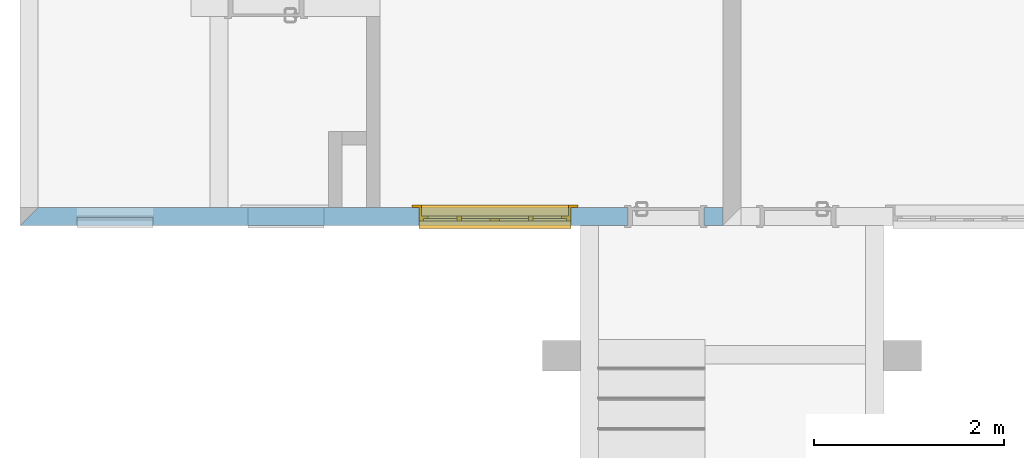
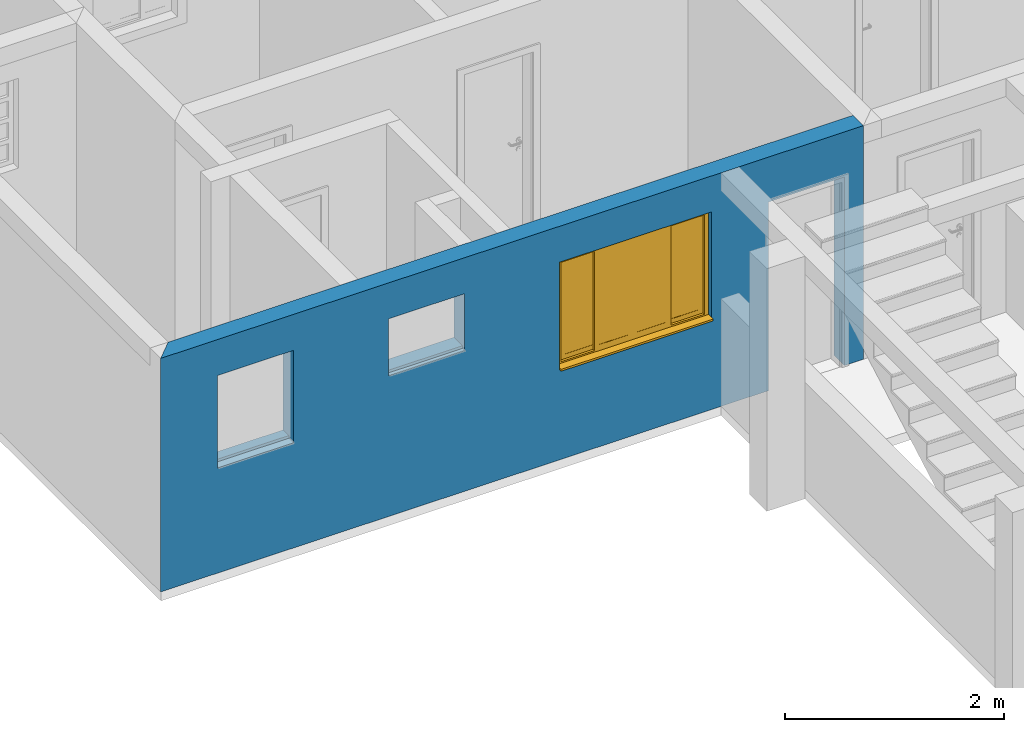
# One storey, part 26 of 47: 1 wall, 1 window, 4 openings.
"""IFC2X3 building model written with IfcOpenShell, lengths in millimetres."""

from ifc_helpers import new_model, entity, si_unit, converted_unit, derived_unit, money_unit, direction, frame, origin_with_axes, origin_2d_with_axis, place, context, subcontext, project, spatial, polyline, rectangle, outline, extrude, open_shell, faceted_brep, surface_model, source, transform, mapped, material, layer, layer_set, layer_usage, type_object, element, fill, save


model = new_model("IFC2X3")

# Units and contexts
model_context = context("Model", 3, precision=0.01, world=origin_with_axes(), true_north=direction((0.0, 1.0)))
body_context = subcontext(model_context, "Body", "Model", "MODEL_VIEW")
ifc_project = project(units=[si_unit("LENGTHUNIT", "METRE", prefix="MILLI"), si_unit("AREAUNIT", "SQUARE_METRE"), si_unit("VOLUMEUNIT", "CUBIC_METRE"), converted_unit("PLANEANGLEUNIT", "DEGREE", entity("IfcPlaneAngleMeasure", 0.0174532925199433), si_unit("PLANEANGLEUNIT", "RADIAN"), dimensions=[0, 0, 0, 0, 0, 0, 0]), money_unit("USD"), converted_unit("TIMEUNIT", "Year", entity("IfcTimeMeasure", 31557600.0), si_unit("TIMEUNIT", "SECOND"), dimensions=[0, 0, 1, 0, 0, 0, 0]), si_unit("MASSUNIT", "GRAM", prefix="KILO"), si_unit("THERMODYNAMICTEMPERATUREUNIT", "DEGREE_CELSIUS"), si_unit("LUMINOUSINTENSITYUNIT", "LUMEN"), si_unit("ENERGYUNIT", "JOULE", prefix="MEGA"), derived_unit("THERMALCONDUCTANCEUNIT", [(si_unit("POWERUNIT", "WATT"), 1), (si_unit("LENGTHUNIT", "METRE"), -1), (si_unit("THERMODYNAMICTEMPERATUREUNIT", "KELVIN"), -1)]), derived_unit("SPECIFICHEATCAPACITYUNIT", [(si_unit("ENERGYUNIT", "JOULE"), 1), (si_unit("MASSUNIT", "GRAM", prefix="KILO"), -1), (si_unit("THERMODYNAMICTEMPERATUREUNIT", "KELVIN"), -1)]), derived_unit("MASSDENSITYUNIT", [(si_unit("MASSUNIT", "GRAM", prefix="KILO"), 1), (si_unit("VOLUMEUNIT", "CUBIC_METRE"), -1)])], contexts=[model_context])

# Site, building, storey
site_placement = place(None, origin_with_axes())
site = spatial("IfcSite", under=ifc_project, at=site_placement, Name="Local", CompositionType="ELEMENT")
building_placement = place(site_placement, origin_with_axes())
building = spatial("IfcBuilding", under=site, at=building_placement, Name="Construção", CompositionType="ELEMENT")
storey_placement = place(building_placement, origin_with_axes())
storey = spatial("IfcBuildingStorey", under=building, at=storey_placement, Name="Pavimento Tipo", CompositionType="ELEMENT", Elevation=0.0)

# Wall, openings, window
ifc_material = material(Name="Concreto - Estrutural")
ifc_layer = layer(ifc_material, 190.0, ventilated="UNKNOWN")
ifc_layer_set = layer_set([ifc_layer], Name="Concreto - Estrutural 190")
ifc_layer_usage = layer_usage(ifc_layer_set, "AXIS2", "POSITIVE", -190.0)
wall_type = type_object("IfcWallType", Name="Concreto - Estrutural 190", PredefinedType="NOTDEFINED")
wall_placement = place(storey_placement, frame((852.5669975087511, 12396.98141771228, 0.0), z_axis=(0.0, 0.0, 1.0), x_axis=(-1.0, 0.0, 0.0)))
wall = element("IfcWallStandardCase", 1, at=wall_placement, inside=storey, type_object=wall_type, material=ifc_layer_usage, Name="Apartamento 2 - Parede-003", context=body_context, shape_type="SweptSolid", body=[
    extrude(outline(polyline([(0.0, -189.9999999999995), (7209.999999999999, -189.9999999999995), (7399.999999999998, 0.0), (0.0, 0.0), (0.0, -189.9999999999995)])), origin_with_axes(), (0.0, 0.0, 1.0), 2600.0),
])
opening_1_placement = place(wall_placement, frame((2400.0, 0.0, 1000.0), z_axis=(0.0, 0.0, 1.0), x_axis=(1.0, 0.0, 0.0)))
opening_1 = element("IfcOpeningElement", 2, at=opening_1_placement, cuts=wall, Name="Apartamento 2 - J01", context=body_context, shape_type="SweptSolid", body=[
    extrude(rectangle(XDim=1600.0, YDim=1200.0, at=origin_2d_with_axis()), frame((0.0, -49.99999999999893, 600.0000000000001), z_axis=(0.0, 1.0, 0.0), x_axis=(1.0, 0.0, 0.0)), (0.0, 0.0, -1.0), 330.0),
    extrude(rectangle(XDim=1600.0, YDim=1200.0, at=origin_2d_with_axis()), frame((0.0, -49.99999999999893, 600.0000000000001), z_axis=(0.0, -1.0, 0.0), x_axis=(1.0, 0.0, 0.0)), (0.0, 0.0, -1.0), 240.0),
    extrude(rectangle(XDim=1750.0, YDim=1350.0, at=origin_2d_with_axis()), frame((0.0, -189.9999999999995, 599.9999999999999), z_axis=(0.0, 1.0, 0.0), x_axis=(1.0, 0.0, 0.0)), (0.0, 0.0, -1.0), 240.0),
])
opening_2_placement = place(wall_placement, frame((4600.0, 0.0, 1600.0), z_axis=(0.0, 0.0, 1.0), x_axis=(1.0, 0.0, 0.0)))
element("IfcOpeningElement", 3, at=opening_2_placement, cuts=wall, Name="Apartamento 2 - J02", context=body_context, shape_type="SweptSolid", body=[
    extrude(rectangle(XDim=800.0000000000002, YDim=599.9999999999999, at=origin_2d_with_axis()), frame((0.0, -189.9999999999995, 299.9999999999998), z_axis=(0.0, -1.0, 0.0), x_axis=(-1.0, 0.0, 0.0)), (0.0, 0.0, -1.0), 570.0000000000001),
    extrude(rectangle(XDim=800.0000000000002, YDim=30.00000000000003, at=origin_2d_with_axis()), frame((0.0, -35.00000000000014, -14.9999999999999), z_axis=(0.0, 1.0, 0.0), x_axis=(-1.0, 0.0, 0.0)), (0.0, 0.0, 1.0), 225.0),
    extrude(rectangle(XDim=950.0000000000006, YDim=750.0, at=origin_2d_with_axis()), frame((0.0, -189.9999999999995, 300.0000000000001), z_axis=(0.0, -1.0, 0.0), x_axis=(-1.0, 0.0, 0.0)), (0.0, 0.0, 1.0), 190.0),
])
opening_3_placement = place(wall_placement, frame((6399.999999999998, 0.0, 1200.0), z_axis=(0.0, 0.0, 1.0), x_axis=(1.0, 0.0, 0.0)))
element("IfcOpeningElement", 4, at=opening_3_placement, cuts=wall, Name="Apartamento 2 - J03", context=body_context, shape_type="SweptSolid", body=[
    extrude(rectangle(XDim=800.0000000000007, YDim=999.9999999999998, at=origin_2d_with_axis()), frame((0.0, -49.99999999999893, 500.0), z_axis=(0.0, -1.0, 0.0), x_axis=(-1.0, 0.0, 0.0)), (0.0, 0.0, 1.0), 330.0),
    extrude(rectangle(XDim=800.0000000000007, YDim=999.9999999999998, at=origin_2d_with_axis()), frame((0.0, -49.99999999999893, 500.0), z_axis=(0.0, 1.0, 0.0), x_axis=(-1.0, 0.0, 0.0)), (0.0, 0.0, 1.0), 240.0),
    extrude(rectangle(XDim=800.0000000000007, YDim=30.00000000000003, at=origin_2d_with_axis()), frame((0.0, -84.99999999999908, -14.9999999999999), z_axis=(0.0, 1.0, 0.0), x_axis=(-1.0, 0.0, 0.0)), (0.0, 0.0, 1.0), 225.0),
])
opening_4_placement = place(wall_placement, frame((600.0000000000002, 0.0, 0.0), z_axis=(0.0, 0.0, 1.0), x_axis=(1.0, 0.0, 0.0)))
element("IfcOpeningElement", 5, at=opening_4_placement, cuts=wall, Name="Apartamento 2 - P01", context=body_context, shape_type="SweptSolid", body=[
    extrude(rectangle(XDim=800.0, YDim=2100.0, at=origin_2d_with_axis()), frame((0.0, -189.9999999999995, 1050.0), z_axis=(0.0, 1.0, 0.0), x_axis=(-1.0, 0.0, 0.0)), (0.0, 0.0, 1.0), 570.0000000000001),
    extrude(rectangle(XDim=870.0000000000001, YDim=2135.0, at=origin_2d_with_axis()), frame((0.0, -189.9999999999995, 1067.5), z_axis=(0.0, 1.0, 0.0), x_axis=(-1.0, 0.0, 0.0)), (0.0, 0.0, -1.0), 190.0),
    extrude(rectangle(XDim=870.0000000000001, YDim=2135.0, at=origin_2d_with_axis()), frame((0.0, 0.0, 1067.5), z_axis=(0.0, -1.0, 0.0), x_axis=(-1.0, 0.0, 0.0)), (0.0, 0.0, -1.0), 190.0),
])
window_style = type_object("IfcWindowStyle", Name="Janela de Correr 4-Folhas 27", ConstructionType="NOTDEFINED", OperationType="USERDEFINED", ParameterTakesPrecedence=False, Sizeable=False)
shared_shape = source(origin_with_axes(), body_context, "Body", "SurfaceModel", [
    faceted_brep([(-800.0, 0.0, 5.0), (-800.0, 0.0, 30.0), (-800.0, 50.0, 27.37961103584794), (-800.0, 50.0, 5.000000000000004), (800.0, 0.0, 5.0), (800.0, 0.0, 30.0), (800.0, 50.0, 27.37961103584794), (800.0, 80.0, 25.8073776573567), (-800.0, 80.0, 25.8073776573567), (-800.0, 80.0, 5.000000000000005), (800.0, 80.0, 5.000000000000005), (800.0, 50.0, 5.000000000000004)], [[[0, 1, 2, 3]], [[4, 5, 1, 0]], [[1, 5, 6, 7, 8, 2]], [[3, 2, 8, 9]], [[0, 3, 9, 10, 11, 4]], [[11, 6, 5, 4]], [[10, 7, 6, 11]], [[9, 8, 7, 10]]]),
    faceted_brep([(-800.0, 0.0, 0.0), (-800.0, 0.0, 5.0), (-800.0, 50.0, 5.0), (-800.0, 50.0, 0.0), (800.0, 0.0, 0.0), (800.0, 0.0, 5.0), (800.0, 50.0, 5.0), (800.0, 50.0, 0.0)], [[[0, 1, 2, 3]], [[4, 5, 1, 0]], [[1, 5, 6, 2]], [[3, 2, 6, 7]], [[0, 3, 7, 4]], [[7, 6, 5, 4]]]),
    faceted_brep([(-800.0, -50.0, 0.0), (800.0, -50.0, 0.0), (800.0, -140.0, 0.0), (-800.0, -140.0, 0.0), (-800.0, -50.00000000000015, 1200.0), (800.0, -50.00000000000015, 1200.0), (-775.0, -50.0, 24.99999999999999), (775.0, -50.0, 24.99999999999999), (775.0, -50.00000000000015, 1175.0), (-775.0, -50.00000000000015, 1175.0), (800.0, -140.0000000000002, 1200.0), (-800.0, -140.0000000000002, 1200.0), (-775.0, -140.0, 24.99999999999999), (-775.0, -140.0000000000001, 1175.0), (775.0, -140.0000000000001, 1175.0), (775.0, -140.0, 24.99999999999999)], [[[0, 1, 2, 3]], [[0, 4, 5, 1], [6, 7, 8, 9]], [[1, 5, 10, 2]], [[3, 2, 10, 11], [12, 13, 14, 15]], [[4, 0, 3, 11]], [[5, 4, 11, 10]], [[7, 6, 12, 15]], [[8, 7, 15, 14]], [[9, 8, 14, 13]], [[6, 9, 13, 12]]]),
    faceted_brep([(-875.0, -165.0, -75.00000000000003), (-875.0, -140.0, -75.00000000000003), (-775.0, -140.0, 24.99999999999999), (-775.0, -165.0, 24.99999999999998), (-875.0, -165.0000000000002, 1275.0), (-875.0, -140.0000000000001, 1275.0), (-775.0, -140.0000000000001, 1175.0), (-775.0, -165.0000000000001, 1175.0)], [[[0, 1, 2, 3]], [[4, 5, 1, 0]], [[1, 5, 6, 2]], [[3, 2, 6, 7]], [[0, 3, 7, 4]], [[7, 6, 5, 4]]]),
    faceted_brep([(875.0, -165.0000000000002, 1275.0), (875.0, -140.0000000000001, 1275.0), (775.0, -140.0000000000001, 1175.0), (775.0, -165.0000000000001, 1175.0), (875.0, -165.0, -75.00000000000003), (875.0, -140.0, -75.00000000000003), (775.0, -140.0, 24.99999999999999), (775.0, -165.0, 24.99999999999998)], [[[0, 1, 2, 3]], [[4, 5, 1, 0]], [[1, 5, 6, 2]], [[3, 2, 6, 7]], [[0, 3, 7, 4]], [[7, 6, 5, 4]]]),
    faceted_brep([(875.0, -165.0, -75.00000000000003), (875.0, -140.0, -75.00000000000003), (775.0, -140.0, 24.99999999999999), (775.0, -165.0, 24.99999999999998), (-875.0, -165.0, -75.00000000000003), (-875.0, -140.0, -75.00000000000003), (-775.0, -140.0, 24.99999999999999), (-775.0, -165.0, 24.99999999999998)], [[[0, 1, 2, 3]], [[4, 5, 1, 0]], [[1, 5, 6, 2]], [[3, 2, 6, 7]], [[0, 3, 7, 4]], [[7, 6, 5, 4]]]),
    faceted_brep([(-875.0, -165.0000000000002, 1275.0), (-875.0, -140.0000000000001, 1275.0), (-775.0, -140.0000000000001, 1175.0), (-775.0, -165.0000000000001, 1175.0), (875.0, -165.0000000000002, 1275.0), (875.0, -140.0000000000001, 1275.0), (775.0, -140.0000000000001, 1175.0), (775.0, -165.0000000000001, 1175.0)], [[[0, 1, 2, 3]], [[4, 5, 1, 0]], [[1, 5, 6, 2]], [[3, 2, 6, 7]], [[0, 3, 7, 4]], [[7, 6, 5, 4]]]),
    faceted_brep([(-753.0, -50.00000000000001, 47.0), (-753.0, 0.0, 47.00000000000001), (-753.0, 0.0, 1153.0), (-753.0, -50.00000000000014, 1153.0), (-800.0, -50.00000000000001, 47.0), (-800.0, 0.0, 47.00000000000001), (-800.0, 0.0, 1153.0), (-800.0, -50.00000000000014, 1153.0)], [[[0, 1, 2, 3]], [[4, 5, 1, 0]], [[1, 5, 6, 2]], [[3, 2, 6, 7]], [[0, 3, 7, 4]], [[7, 6, 5, 4]]]),
    faceted_brep([(800.0, -50.00000000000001, 47.0), (800.0, 0.0, 47.00000000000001), (800.0, 0.0, 1153.0), (800.0, -50.00000000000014, 1153.0), (753.0, -50.00000000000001, 47.0), (753.0, 0.0, 47.00000000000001), (753.0, 0.0, 1153.0), (753.0, -50.00000000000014, 1153.0)], [[[0, 1, 2, 3]], [[4, 5, 1, 0]], [[1, 5, 6, 2]], [[3, 2, 6, 7]], [[0, 3, 7, 4]], [[7, 6, 5, 4]]]),
    faceted_brep([(800.0, -50.00000000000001, 47.0), (800.0, 0.0, 47.00000000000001), (753.0, 0.0, 47.00000000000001), (753.0, -50.00000000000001, 47.0), (800.0, -50.0, 0.0), (800.0, 0.0, 0.0), (-800.0, 0.0, 0.0), (-800.0, 0.0, 47.00000000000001), (-753.0, 0.0, 47.00000000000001), (-753.0, -50.00000000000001, 47.0), (-800.0, -50.00000000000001, 47.0), (-800.0, -50.0, 0.0)], [[[0, 1, 2, 3]], [[4, 5, 1, 0]], [[1, 5, 6, 7, 8, 2]], [[3, 2, 8, 9]], [[0, 3, 9, 10, 11, 4]], [[11, 6, 5, 4]], [[10, 7, 6, 11]], [[9, 8, 7, 10]]]),
    faceted_brep([(800.0, -50.00000000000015, 1200.0), (800.0, 0.0, 1200.0), (-800.0, 0.0, 1200.0), (-800.0, -50.00000000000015, 1200.0), (800.0, -50.00000000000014, 1153.0), (800.0, 0.0, 1153.0), (753.0, 0.0, 1153.0), (376.5000000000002, 0.0, 1153.0), (0.0, 0.0, 1153.0), (-376.4999999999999, 0.0, 1153.0), (-753.0, 0.0, 1153.0), (-800.0, 0.0, 1153.0), (-800.0, -50.00000000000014, 1153.0), (-753.0, -50.00000000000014, 1153.0), (-376.4999999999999, -50.00000000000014, 1153.0), (0.0, -50.00000000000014, 1153.0), (376.5000000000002, -50.00000000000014, 1153.0), (753.0, -50.00000000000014, 1153.0)], [[[0, 1, 2, 3]], [[4, 5, 1, 0]], [[1, 5, 6, 7, 8, 9, 10, 11, 2]], [[3, 2, 11, 12]], [[0, 3, 12, 13, 14, 15, 16, 17, 4]], [[17, 6, 5, 4]], [[16, 7, 6, 17]], [[15, 8, 7, 16]], [[14, 9, 8, 15]], [[13, 10, 9, 14]], [[12, 11, 10, 13]]]),
    faceted_brep([(-703.0, -50.00000000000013, 1103.0), (-703.0, -25.00000000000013, 1103.0), (-752.9999999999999, -25.00000000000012, 1103.0), (-752.9999999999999, -50.00000000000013, 1103.0), (-703.0, -50.00000000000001, 97.0), (-703.0, -25.0, 97.0), (-752.9999999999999, -25.0, 97.0), (-752.9999999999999, -50.0, 97.0)], [[[0, 1, 2, 3]], [[4, 5, 1, 0]], [[1, 5, 6, 2]], [[3, 2, 6, 7]], [[0, 3, 7, 4]], [[7, 6, 5, 4]]]),
    faceted_brep([(-401.4999999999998, -50.00000000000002, 97.0), (-401.4999999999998, -25.00000000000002, 97.0), (-351.4999999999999, -25.00000000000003, 97.0), (-351.4999999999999, -50.00000000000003, 97.0), (-401.4999999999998, -50.00000000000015, 1103.0), (-401.4999999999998, -25.00000000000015, 1103.0), (-351.4999999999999, -25.00000000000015, 1103.0), (-351.4999999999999, -50.00000000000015, 1103.0)], [[[0, 1, 2, 3]], [[4, 5, 1, 0]], [[1, 5, 6, 2]], [[3, 2, 6, 7]], [[0, 3, 7, 4]], [[7, 6, 5, 4]]]),
    faceted_brep([(-351.4999999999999, -50.00000000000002, 47.0), (-351.4999999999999, -25.00000000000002, 47.0), (-351.4999999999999, -25.00000000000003, 97.0), (-351.4999999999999, -50.00000000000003, 97.0), (-752.9999999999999, -49.99999999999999, 47.0), (-752.9999999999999, -24.99999999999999, 47.0), (-752.9999999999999, -25.0, 97.0), (-703.0, -25.0, 97.0), (-401.4999999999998, -25.00000000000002, 97.0), (-401.4999999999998, -50.00000000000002, 97.0), (-703.0, -50.00000000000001, 97.0), (-752.9999999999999, -50.0, 97.0)], [[[0, 1, 2, 3]], [[4, 5, 1, 0]], [[1, 5, 6, 7, 8, 2]], [[3, 2, 8, 9]], [[0, 3, 9, 10, 11, 4]], [[11, 6, 5, 4]], [[10, 7, 6, 11]], [[9, 8, 7, 10]]]),
    faceted_brep([(-752.9999999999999, -50.00000000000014, 1153.0), (-752.9999999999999, -25.00000000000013, 1153.0), (-752.9999999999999, -25.00000000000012, 1103.0), (-752.9999999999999, -50.00000000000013, 1103.0), (-351.4999999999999, -50.00000000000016, 1153.0), (-351.4999999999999, -25.00000000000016, 1153.0), (-351.4999999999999, -25.00000000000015, 1103.0), (-401.4999999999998, -25.00000000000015, 1103.0), (-703.0, -25.00000000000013, 1103.0), (-703.0, -50.00000000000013, 1103.0), (-401.4999999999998, -50.00000000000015, 1103.0), (-351.4999999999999, -50.00000000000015, 1103.0)], [[[0, 1, 2, 3]], [[4, 5, 1, 0]], [[1, 5, 6, 7, 8, 2]], [[3, 2, 8, 9]], [[0, 3, 9, 10, 11, 4]], [[11, 6, 5, 4]], [[10, 7, 6, 11]], [[9, 8, 7, 10]]]),
    surface_model("IfcShellBasedSurfaceModel", [(-703.0, -47.50000000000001, 97.0), (-401.4999999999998, -47.50000000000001, 97.0), (-401.4999999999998, -47.50000000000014, 1103.0), (-703.0, -47.50000000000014, 1103.0)], [open_shell([[[0, 1, 2, 3]]])]),
    surface_model("IfcShellBasedSurfaceModel", [(-703.0, -27.50000000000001, 97.0), (-703.0, -27.50000000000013, 1103.0), (-401.4999999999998, -27.50000000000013, 1103.0), (-401.4999999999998, -27.50000000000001, 97.0)], [open_shell([[[0, 1, 2, 3]]])]),
    faceted_brep([(-351.4999999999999, -25.00000000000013, 1103.0), (-351.4999999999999, 0.0, 1103.0), (-401.4999999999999, 0.0, 1103.0), (-401.4999999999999, -25.00000000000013, 1103.0), (-351.4999999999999, -25.0, 97.0), (-351.4999999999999, 0.0, 97.0), (-401.4999999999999, 0.0, 97.0), (-401.4999999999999, -25.0, 97.0)], [[[0, 1, 2, 3]], [[4, 5, 1, 0]], [[1, 5, 6, 2]], [[3, 2, 6, 7]], [[0, 3, 7, 4]], [[7, 6, 5, 4]]]),
    faceted_brep([(-49.99999999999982, -25.00000000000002, 97.0), (-49.99999999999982, 0.0, 97.0), (0.0, 0.0, 97.0), (0.0, -25.00000000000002, 97.0), (-49.99999999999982, -25.00000000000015, 1103.0), (-49.99999999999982, 0.0, 1103.0), (0.0, 0.0, 1103.0), (0.0, -25.00000000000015, 1103.0)], [[[0, 1, 2, 3]], [[4, 5, 1, 0]], [[1, 5, 6, 2]], [[3, 2, 6, 7]], [[0, 3, 7, 4]], [[7, 6, 5, 4]]]),
    faceted_brep([(0.0, -25.00000000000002, 47.0), (0.0, 0.0, 47.0), (0.0, 0.0, 97.0), (0.0, -25.00000000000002, 97.0), (-401.4999999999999, -24.99999999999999, 47.0), (-401.4999999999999, 0.0, 47.0), (-401.4999999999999, 0.0, 97.0), (-351.4999999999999, 0.0, 97.0), (-49.99999999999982, 0.0, 97.0), (-49.99999999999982, -25.00000000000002, 97.0), (-351.4999999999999, -25.0, 97.0), (-401.4999999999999, -25.0, 97.0)], [[[0, 1, 2, 3]], [[4, 5, 1, 0]], [[1, 5, 6, 7, 8, 2]], [[3, 2, 8, 9]], [[0, 3, 9, 10, 11, 4]], [[11, 6, 5, 4]], [[10, 7, 6, 11]], [[9, 8, 7, 10]]]),
    faceted_brep([(-401.4999999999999, -25.00000000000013, 1153.0), (-401.4999999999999, 0.0, 1153.0), (-401.4999999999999, 0.0, 1103.0), (-401.4999999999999, -25.00000000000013, 1103.0), (0.0, -25.00000000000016, 1153.0), (0.0, 0.0, 1153.0), (0.0, 0.0, 1103.0), (-49.99999999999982, 0.0, 1103.0), (-351.4999999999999, 0.0, 1103.0), (-351.4999999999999, -25.00000000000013, 1103.0), (-49.99999999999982, -25.00000000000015, 1103.0), (0.0, -25.00000000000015, 1103.0)], [[[0, 1, 2, 3]], [[4, 5, 1, 0]], [[1, 5, 6, 7, 8, 2]], [[3, 2, 8, 9]], [[0, 3, 9, 10, 11, 4]], [[11, 6, 5, 4]], [[10, 7, 6, 11]], [[9, 8, 7, 10]]]),
    surface_model("IfcShellBasedSurfaceModel", [(-351.4999999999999, -22.50000000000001, 97.0), (-49.99999999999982, -22.50000000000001, 97.0), (-49.99999999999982, -22.50000000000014, 1103.0), (-351.4999999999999, -22.50000000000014, 1103.0)], [open_shell([[[0, 1, 2, 3]]])]),
    surface_model("IfcShellBasedSurfaceModel", [(-351.4999999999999, -2.500000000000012, 97.0), (-351.4999999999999, -2.500000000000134, 1103.0), (-49.99999999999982, -2.500000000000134, 1103.0), (-49.99999999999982, -2.500000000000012, 97.0)], [open_shell([[[0, 1, 2, 3]]])]),
    faceted_brep([(50.00000000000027, -25.00000000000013, 1103.0), (50.00000000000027, 0.0, 1103.0), (0.0, 0.0, 1103.0), (0.0, -25.00000000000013, 1103.0), (50.00000000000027, -25.0, 97.0), (50.00000000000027, 0.0, 97.0), (0.0, 0.0, 97.0), (0.0, -25.0, 97.0)], [[[0, 1, 2, 3]], [[4, 5, 1, 0]], [[1, 5, 6, 2]], [[3, 2, 6, 7]], [[0, 3, 7, 4]], [[7, 6, 5, 4]]]),
    faceted_brep([(351.5000000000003, -25.00000000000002, 97.0), (351.5000000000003, 0.0, 97.0), (401.5000000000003, 0.0, 97.0), (401.5000000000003, -25.00000000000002, 97.0), (351.5000000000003, -25.00000000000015, 1103.0), (351.5000000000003, 0.0, 1103.0), (401.5000000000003, 0.0, 1103.0), (401.5000000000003, -25.00000000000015, 1103.0)], [[[0, 1, 2, 3]], [[4, 5, 1, 0]], [[1, 5, 6, 2]], [[3, 2, 6, 7]], [[0, 3, 7, 4]], [[7, 6, 5, 4]]]),
    faceted_brep([(401.5000000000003, -25.00000000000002, 47.0), (401.5000000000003, 0.0, 47.0), (401.5000000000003, 0.0, 97.0), (401.5000000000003, -25.00000000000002, 97.0), (0.0, -24.99999999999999, 47.0), (0.0, 0.0, 47.0), (0.0, 0.0, 97.0), (50.00000000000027, 0.0, 97.0), (351.5000000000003, 0.0, 97.0), (351.5000000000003, -25.00000000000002, 97.0), (50.00000000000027, -25.0, 97.0), (0.0, -25.0, 97.0)], [[[0, 1, 2, 3]], [[4, 5, 1, 0]], [[1, 5, 6, 7, 8, 2]], [[3, 2, 8, 9]], [[0, 3, 9, 10, 11, 4]], [[11, 6, 5, 4]], [[10, 7, 6, 11]], [[9, 8, 7, 10]]]),
    faceted_brep([(0.0, -25.00000000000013, 1153.0), (0.0, 0.0, 1153.0), (0.0, 0.0, 1103.0), (0.0, -25.00000000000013, 1103.0), (401.5000000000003, -25.00000000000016, 1153.0), (401.5000000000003, 0.0, 1153.0), (401.5000000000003, 0.0, 1103.0), (351.5000000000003, 0.0, 1103.0), (50.00000000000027, 0.0, 1103.0), (50.00000000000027, -25.00000000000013, 1103.0), (351.5000000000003, -25.00000000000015, 1103.0), (401.5000000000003, -25.00000000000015, 1103.0)], [[[0, 1, 2, 3]], [[4, 5, 1, 0]], [[1, 5, 6, 7, 8, 2]], [[3, 2, 8, 9]], [[0, 3, 9, 10, 11, 4]], [[11, 6, 5, 4]], [[10, 7, 6, 11]], [[9, 8, 7, 10]]]),
    surface_model("IfcShellBasedSurfaceModel", [(50.00000000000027, -22.50000000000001, 97.0), (351.5000000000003, -22.50000000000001, 97.0), (351.5000000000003, -22.50000000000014, 1103.0), (50.00000000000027, -22.50000000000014, 1103.0)], [open_shell([[[0, 1, 2, 3]]])]),
    surface_model("IfcShellBasedSurfaceModel", [(50.00000000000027, -2.500000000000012, 97.0), (50.00000000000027, -2.500000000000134, 1103.0), (351.5000000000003, -2.500000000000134, 1103.0), (351.5000000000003, -2.500000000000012, 97.0)], [open_shell([[[0, 1, 2, 3]]])]),
    faceted_brep([(401.5000000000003, -50.00000000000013, 1103.0), (401.5000000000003, -25.00000000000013, 1103.0), (351.5000000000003, -25.00000000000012, 1103.0), (351.5000000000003, -50.00000000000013, 1103.0), (401.5000000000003, -50.00000000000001, 97.0), (401.5000000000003, -25.0, 97.0), (351.5000000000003, -25.0, 97.0), (351.5000000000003, -50.0, 97.0)], [[[0, 1, 2, 3]], [[4, 5, 1, 0]], [[1, 5, 6, 2]], [[3, 2, 6, 7]], [[0, 3, 7, 4]], [[7, 6, 5, 4]]]),
    faceted_brep([(703.0000000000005, -50.00000000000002, 97.0), (703.0000000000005, -25.00000000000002, 97.0), (753.0000000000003, -25.00000000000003, 97.0), (753.0000000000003, -50.00000000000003, 97.0), (703.0000000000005, -50.00000000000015, 1103.0), (703.0000000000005, -25.00000000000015, 1103.0), (753.0000000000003, -25.00000000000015, 1103.0), (753.0000000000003, -50.00000000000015, 1103.0)], [[[0, 1, 2, 3]], [[4, 5, 1, 0]], [[1, 5, 6, 2]], [[3, 2, 6, 7]], [[0, 3, 7, 4]], [[7, 6, 5, 4]]]),
    faceted_brep([(753.0000000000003, -50.00000000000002, 47.0), (753.0000000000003, -25.00000000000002, 47.0), (753.0000000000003, -25.00000000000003, 97.0), (753.0000000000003, -50.00000000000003, 97.0), (351.5000000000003, -49.99999999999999, 47.0), (351.5000000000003, -24.99999999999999, 47.0), (351.5000000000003, -25.0, 97.0), (401.5000000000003, -25.0, 97.0), (703.0000000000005, -25.00000000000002, 97.0), (703.0000000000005, -50.00000000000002, 97.0), (401.5000000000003, -50.00000000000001, 97.0), (351.5000000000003, -50.0, 97.0)], [[[0, 1, 2, 3]], [[4, 5, 1, 0]], [[1, 5, 6, 7, 8, 2]], [[3, 2, 8, 9]], [[0, 3, 9, 10, 11, 4]], [[11, 6, 5, 4]], [[10, 7, 6, 11]], [[9, 8, 7, 10]]]),
    faceted_brep([(351.5000000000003, -50.00000000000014, 1153.0), (351.5000000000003, -25.00000000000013, 1153.0), (351.5000000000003, -25.00000000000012, 1103.0), (351.5000000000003, -50.00000000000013, 1103.0), (753.0000000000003, -50.00000000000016, 1153.0), (753.0000000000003, -25.00000000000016, 1153.0), (753.0000000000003, -25.00000000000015, 1103.0), (703.0000000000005, -25.00000000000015, 1103.0), (401.5000000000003, -25.00000000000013, 1103.0), (401.5000000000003, -50.00000000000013, 1103.0), (703.0000000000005, -50.00000000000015, 1103.0), (753.0000000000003, -50.00000000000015, 1103.0)], [[[0, 1, 2, 3]], [[4, 5, 1, 0]], [[1, 5, 6, 7, 8, 2]], [[3, 2, 8, 9]], [[0, 3, 9, 10, 11, 4]], [[11, 6, 5, 4]], [[10, 7, 6, 11]], [[9, 8, 7, 10]]]),
    surface_model("IfcShellBasedSurfaceModel", [(401.5000000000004, -47.50000000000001, 97.0), (703.0000000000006, -47.50000000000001, 97.0), (703.0000000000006, -47.50000000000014, 1103.0), (401.5000000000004, -47.50000000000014, 1103.0)], [open_shell([[[0, 1, 2, 3]]])]),
    surface_model("IfcShellBasedSurfaceModel", [(401.5000000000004, -27.50000000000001, 97.0), (401.5000000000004, -27.50000000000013, 1103.0), (703.0000000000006, -27.50000000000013, 1103.0), (703.0000000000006, -27.50000000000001, 97.0)], [open_shell([[[0, 1, 2, 3]]])]),
])
window_placement = place(opening_1_placement, frame((-800.0, 0.0, 0.0), z_axis=(0.0, 0.0, 1.0), x_axis=(1.0, 0.0, 0.0)))
window = element("IfcWindow", 6, at=window_placement, inside=storey, type_object=window_style, Name="Apartamento 2 - J01", ObjectType="WINDOW", OverallHeight=1200.0, OverallWidth=1600.0, context=body_context, shape_type="MappedRepresentation", body=[
    mapped(shared_shape, transform((800.0, -49.99999999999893, 0.0))),
])
fill(opening_1, window)

save(model, "model.ifc")
